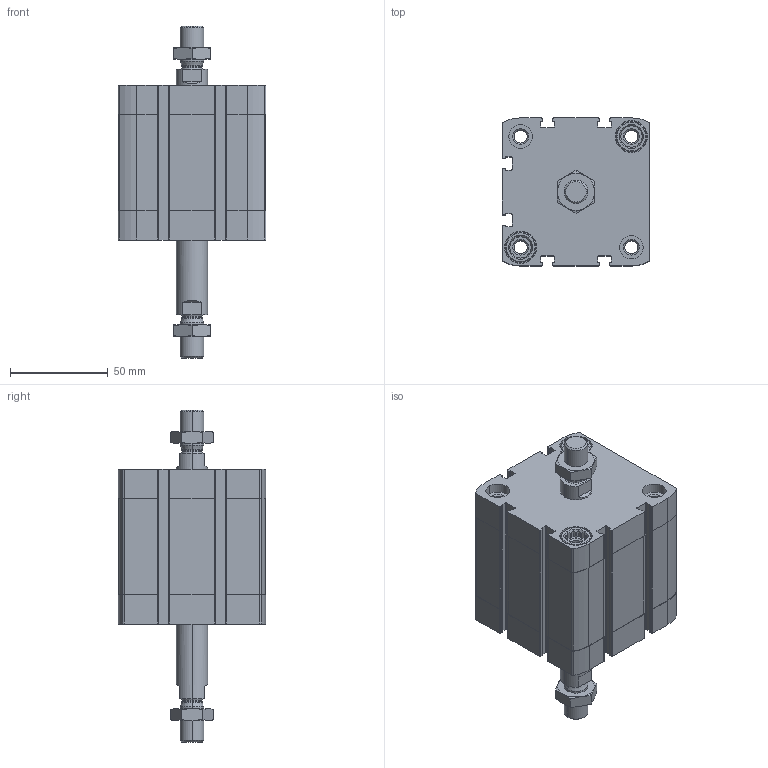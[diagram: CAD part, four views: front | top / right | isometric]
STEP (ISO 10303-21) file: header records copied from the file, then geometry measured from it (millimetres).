
FILE_DESCRIPTION (( 'STEP AP203' ), '1' );
FILE_NAME ('CCN63-30-P.STEP', '2020-06-22T19:02:00', ( '' ), ( '' ), 'SwSTEP 2.0', 'SolidWorks 2019', '' );
FILE_SCHEMA (( 'CONFIG_CONTROL_DESIGN' ));
Length unit declared in the file: millimetre
Products named in the file (1): CCN63-30-P
Bounding box: 75.5 x 75.5 x 169.4 mm (x, y, z)
Volume: 341558.2 mm3; surface area: 85287.7 mm2
Topology: 4 solids, 4 shells, 528 faces, 1396 edges, 908 vertices
Faces by surface type: plane 240, cylinder 220, cone 60, torus 8
Entity records: 17259 total; most frequent: CARTESIAN_POINT 3829, DIRECTION 2850, ORIENTED_EDGE 2792, EDGE_CURVE 1396, AXIS2_PLACEMENT_3D 1049, VERTEX_POINT 908, LINE 752, VECTOR 752
